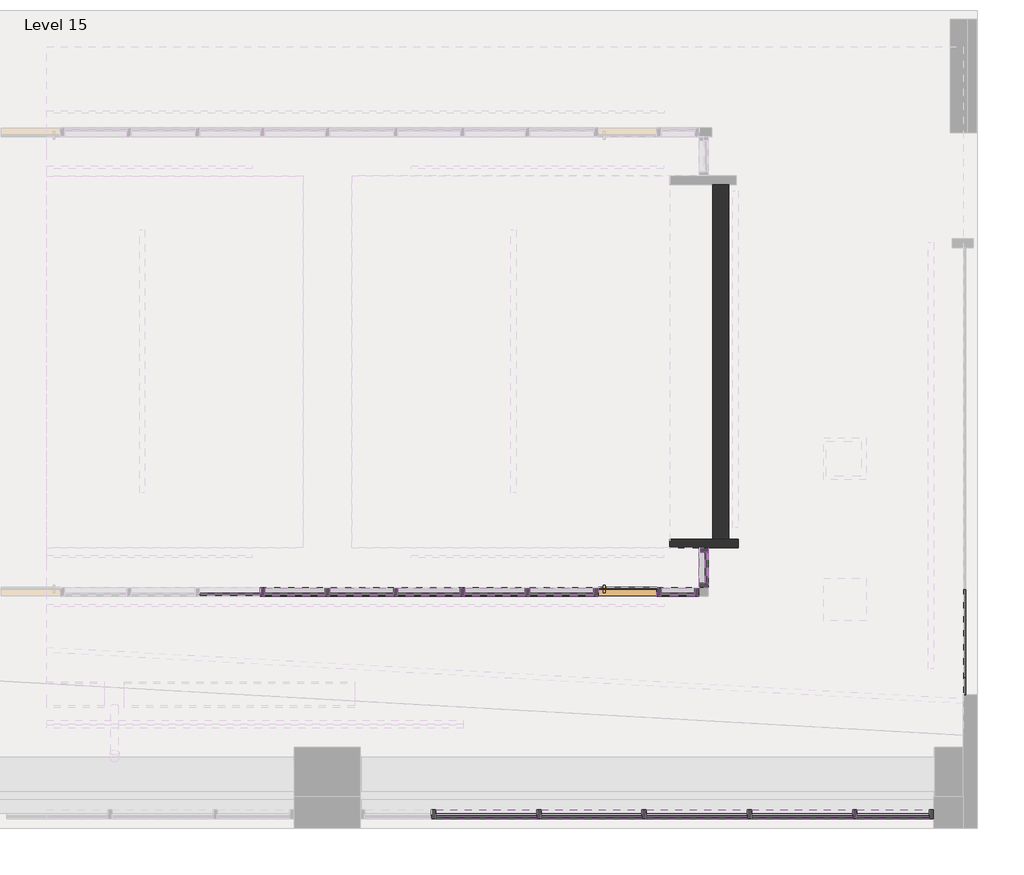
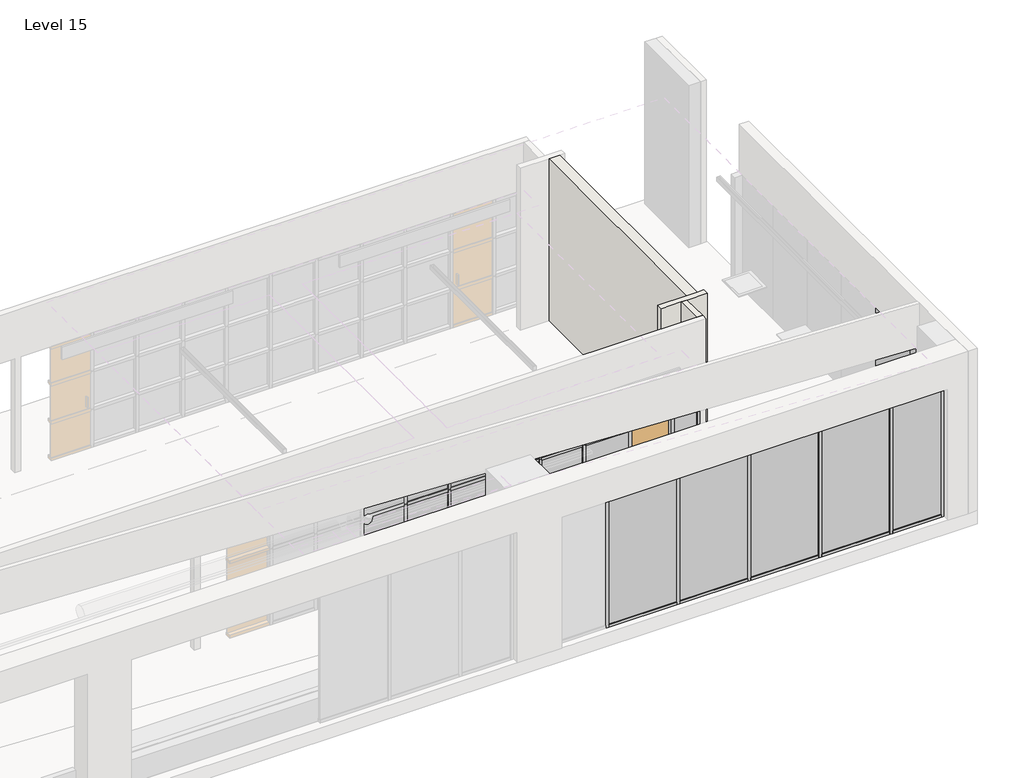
# One storey, part 3 of 11: 75 members, 31 plates, 3 walls, 1 door.
"""IFC4 building model written with IfcOpenShell, lengths in millimetres."""

from ifc_helpers import new_model, si_unit, frame, origin, place, context, project, spatial, polyline, outline, extrude, faceted_brep, transform, mapped, element, save
from components import door_curtain_wall_single_glass_door_curtain_wall_single_wood_7213060e, member_5bcf4c48, member_513efdbe, member_78934672, member_4a1dde21, member_3ebf181e, member_b9f3750b, member_757d0d80, member_69cae7f1, member_954a25dd, member_b7368e82, member_f689fba6, member_99b0d556, member_2928588c, member_aa254800, member_33497832, member_6ec9f0f0, system_panel_glazed_a2e86c99, system_panel_glazed_b6cfed7b, system_panel_glazed_1c2f863c, system_panel_glazed_3f6c4fe7, system_panel_glazed_92b1b0dd, system_panel_glazed_92ccbd79, system_panel_glazed_9c336c3c, system_panel_glazed_9f405089, system_panel_glazed_cf8f2fb3, system_panel_glazed_bf619781, system_panel_glazed_3cdeccce, system_panel_glazed_d449556d, system_panel_glazed_5ae3ba9e, system_panel_glazed_9605d38a

model = new_model("IFC4")

# Units and contexts
model_context = context("Model", 3, world=origin())
ifc_project = project(units=[si_unit("LENGTHUNIT", "METRE", prefix="MILLI")], contexts=[model_context])

# Site, building, storey
site = spatial("IfcSite", under=ifc_project)
building = spatial("IfcBuilding", under=site)
storey = spatial("IfcBuildingStorey", under=building, Name="Level 15", Elevation=51206.4)

# Door
placement = place(None, origin())
door_curtain_wall_single_glass_door_curtain_wall_single_wood_shape = door_curtain_wall_single_glass_door_curtain_wall_single_wood_7213060e(model_context)
element("IfcDoor", 1, ObjectType="Door-Curtain-Wall-Single-Glass : Door-Curtain-Wall-Single-Wood", at=placement, inside=storey, context=model_context, shape_type="MappedRepresentation", body=[
    mapped(door_curtain_wall_single_glass_door_curtain_wall_single_wood_shape, transform((13793.8112561, -3621.1064015, 51206.4), x_axis=(1.0, 0.0, 0.0), y_axis=(0.0, 1.0, 0.0), z_axis=(0.0, 0.0, 1.0))),
])

# Members
member_shape = member_5bcf4c48(model_context)
element("IfcMember", 2, ObjectType="Rectangular Mullion : 2.5\" x 5\" rectangular", at=placement, inside=storey, context=model_context, shape_type="MappedRepresentation", body=[
    mapped(member_shape, transform((18227.3384309, -6837.4064015, 54177.8252182), x_axis=(1.0, 0.0, 0.0), y_axis=(0.0, 1.0, 0.0), z_axis=(0.0, 0.0, 1.0))),
])
member_2_shape = member_513efdbe(model_context)
element("IfcMember", 3, ObjectType="Rectangular Mullion : 2.5\" x 5\" rectangular", at=placement, inside=storey, context=model_context, shape_type="MappedRepresentation", body=[
    mapped(member_2_shape, transform((12512.3384309, -6837.4064015, 51206.4), x_axis=(-1.0, 0.0, 0.0), y_axis=(0.0, 1.0, 0.0), z_axis=(0.0, 0.0, -1.0))),
])
element("IfcMember", 4, ObjectType="Rectangular Mullion : 2.5\" x 5\" rectangular", at=placement, inside=storey, context=model_context, shape_type="MappedRepresentation", body=[
    mapped(member_2_shape, transform((10988.3384309, -6837.4064015, 51206.4), x_axis=(-1.0, 0.0, 0.0), y_axis=(0.0, 1.0, 0.0), z_axis=(0.0, 0.0, -1.0))),
])
element("IfcMember", 5, ObjectType="Rectangular Mullion : 2.5\" x 5\" rectangular", at=placement, inside=storey, context=model_context, shape_type="MappedRepresentation", body=[
    mapped(member_2_shape, transform((14036.3384309, -6837.4064015, 51206.4), x_axis=(-1.0, 0.0, 0.0), y_axis=(0.0, 1.0, 0.0), z_axis=(0.0, 0.0, -1.0))),
])
element("IfcMember", 6, ObjectType="Rectangular Mullion : 2.5\" x 5\" rectangular", at=placement, inside=storey, context=model_context, shape_type="MappedRepresentation", body=[
    mapped(member_2_shape, transform((15560.3384309, -6837.4064015, 51206.4), x_axis=(-1.0, 0.0, 0.0), y_axis=(0.0, 1.0, 0.0), z_axis=(0.0, 0.0, -1.0))),
])
element("IfcMember", 7, ObjectType="Rectangular Mullion : 2.5\" x 5\" rectangular", at=placement, inside=storey, context=model_context, shape_type="MappedRepresentation", body=[
    mapped(member_2_shape, transform((17084.3384309, -6837.4064015, 51206.4), x_axis=(-1.0, 0.0, 0.0), y_axis=(0.0, 1.0, 0.0), z_axis=(0.0, 0.0, -1.0))),
])
member_3_shape = member_78934672(model_context)
element("IfcMember", 8, ObjectType="Rectangular Mullion : 2.5\" x 5\" rectangular", at=placement, inside=storey, context=model_context, shape_type="MappedRepresentation", body=[
    mapped(member_3_shape, transform((18163.8384309, -6837.4064015, 51206.4), x_axis=(0.0, 0.0, -1.0), y_axis=(0.0, 1.0, 0.0), z_axis=(1.0, 0.0, 0.0))),
])
element("IfcMember", 9, ObjectType="Rectangular Mullion : 2.5\" x 5\" rectangular", at=placement, inside=storey, context=model_context, shape_type="MappedRepresentation", body=[
    mapped(member_3_shape, transform((17116.0884309, -6837.4064015, 54177.8252182), x_axis=(0.0, 0.0, 1.0), y_axis=(0.0, 1.0, 0.0), z_axis=(-1.0, 0.0, 0.0))),
])
member_4_shape = member_4a1dde21(model_context)
element("IfcMember", 10, ObjectType="Rectangular Mullion : 2.5\" x 5\" rectangular", at=placement, inside=storey, context=model_context, shape_type="MappedRepresentation", body=[
    mapped(member_4_shape, transform((12544.0884309, -6837.4064015, 54177.8252182), x_axis=(0.0, 0.0, 1.0), y_axis=(0.0, 1.0, 0.0), z_axis=(-1.0, 0.0, 0.0))),
])
element("IfcMember", 11, ObjectType="Rectangular Mullion : 2.5\" x 5\" rectangular", at=placement, inside=storey, context=model_context, shape_type="MappedRepresentation", body=[
    mapped(member_4_shape, transform((11020.0884309, -6837.4064015, 54177.8252182), x_axis=(0.0, 0.0, 1.0), y_axis=(0.0, 1.0, 0.0), z_axis=(-1.0, 0.0, 0.0))),
])
element("IfcMember", 12, ObjectType="Rectangular Mullion : 2.5\" x 5\" rectangular", at=placement, inside=storey, context=model_context, shape_type="MappedRepresentation", body=[
    mapped(member_4_shape, transform((14068.0884309, -6837.4064015, 54177.8252182), x_axis=(0.0, 0.0, 1.0), y_axis=(0.0, 1.0, 0.0), z_axis=(-1.0, 0.0, 0.0))),
])
element("IfcMember", 13, ObjectType="Rectangular Mullion : 2.5\" x 5\" rectangular", at=placement, inside=storey, context=model_context, shape_type="MappedRepresentation", body=[
    mapped(member_4_shape, transform((15592.0884309, -6837.4064015, 54177.8252182), x_axis=(0.0, 0.0, 1.0), y_axis=(0.0, 1.0, 0.0), z_axis=(-1.0, 0.0, 0.0))),
])
element("IfcMember", 14, ObjectType="Rectangular Mullion : 2.5\" x 5\" rectangular", at=placement, inside=storey, context=model_context, shape_type="MappedRepresentation", body=[
    mapped(member_4_shape, transform((12480.5884309, -6837.4064015, 51206.4), x_axis=(0.0, 0.0, -1.0), y_axis=(0.0, 1.0, 0.0), z_axis=(1.0, 0.0, 0.0))),
])
element("IfcMember", 15, ObjectType="Rectangular Mullion : 2.5\" x 5\" rectangular", at=placement, inside=storey, context=model_context, shape_type="MappedRepresentation", body=[
    mapped(member_4_shape, transform((14004.5884309, -6837.4064015, 51206.4), x_axis=(0.0, 0.0, -1.0), y_axis=(0.0, 1.0, 0.0), z_axis=(1.0, 0.0, 0.0))),
])
element("IfcMember", 16, ObjectType="Rectangular Mullion : 2.5\" x 5\" rectangular", at=placement, inside=storey, context=model_context, shape_type="MappedRepresentation", body=[
    mapped(member_4_shape, transform((15528.5884309, -6837.4064015, 51206.4), x_axis=(0.0, 0.0, -1.0), y_axis=(0.0, 1.0, 0.0), z_axis=(1.0, 0.0, 0.0))),
])
element("IfcMember", 17, ObjectType="Rectangular Mullion : 2.5\" x 5\" rectangular", at=placement, inside=storey, context=model_context, shape_type="MappedRepresentation", body=[
    mapped(member_4_shape, transform((17052.5884309, -6837.4064015, 51206.4), x_axis=(0.0, 0.0, -1.0), y_axis=(0.0, 1.0, 0.0), z_axis=(1.0, 0.0, 0.0))),
])
member_5_shape = member_3ebf181e(model_context)
element("IfcMember", 18, ObjectType="Rectangular Mullion : 2.5\" x 5\" rectangular", at=placement, inside=storey, context=model_context, shape_type="MappedRepresentation", body=[
    mapped(member_5_shape, transform((14898.6855466, -3494.1064015, 53804.1570075), x_axis=(0.0, 0.0, 1.0), y_axis=(-1.0, 0.0, 0.0), z_axis=(0.0, -1.0, 0.0))),
])
element("IfcMember", 19, ObjectType="Rectangular Mullion : 2.5\" x 5\" rectangular", at=placement, inside=storey, context=model_context, shape_type="MappedRepresentation", body=[
    mapped(member_5_shape, transform((14898.6855466, -3043.4154908, 51206.4), x_axis=(0.0, 0.0, -1.0), y_axis=(-1.0, 0.0, 0.0), z_axis=(0.0, 1.0, 0.0))),
])
member_6_shape = member_b9f3750b(model_context)
element("IfcMember", 20, ObjectType="Rectangular Mullion : 2.5\" x 5\" rectangular", at=placement, inside=storey, context=model_context, shape_type="MappedRepresentation", body=[
    mapped(member_6_shape, transform((14771.6855466, -3621.1064015, 51206.4), x_axis=(0.0, 0.0, -1.0), y_axis=(0.0, 1.0, 0.0), z_axis=(1.0, 0.0, 0.0))),
])
element("IfcMember", 21, ObjectType="Rectangular Mullion : 2.5\" x 5\" rectangular", at=placement, inside=storey, context=model_context, shape_type="MappedRepresentation", body=[
    mapped(member_6_shape, transform((14282.7355466, -3621.1064015, 53804.1570075), x_axis=(0.0, 0.0, 1.0), y_axis=(0.0, 1.0, 0.0), z_axis=(-1.0, 0.0, 0.0))),
])
member_7_shape = member_757d0d80(model_context)
element("IfcMember", 22, ObjectType="Rectangular Mullion : 2.5\" x 5\" rectangular", at=placement, inside=storey, context=model_context, shape_type="MappedRepresentation", body=[
    mapped(member_7_shape, transform((14282.7355466, -3621.1064015, 52938.238005), x_axis=(0.0, 0.0, 1.0), y_axis=(0.0, 1.0, 0.0), z_axis=(-1.0, 0.0, 0.0))),
])
element("IfcMember", 23, ObjectType="Rectangular Mullion : 2.5\" x 5\" rectangular", at=placement, inside=storey, context=model_context, shape_type="MappedRepresentation", body=[
    mapped(member_7_shape, transform((14282.7355466, -3621.1064015, 52072.3190025), x_axis=(0.0, 0.0, 1.0), y_axis=(0.0, 1.0, 0.0), z_axis=(-1.0, 0.0, 0.0))),
])
member_8_shape = member_69cae7f1(model_context)
element("IfcMember", 24, ObjectType="Rectangular Mullion : 2.5\" x 5\" rectangular", at=placement, inside=storey, context=model_context, shape_type="MappedRepresentation", body=[
    mapped(member_8_shape, transform((14250.9855466, -3621.1064015, 52938.238005), x_axis=(-1.0, 0.0, 0.0), y_axis=(0.0, 1.0, 0.0), z_axis=(0.0, 0.0, -1.0))),
])
element("IfcMember", 25, ObjectType="Rectangular Mullion : 2.5\" x 5\" rectangular", at=placement, inside=storey, context=model_context, shape_type="MappedRepresentation", body=[
    mapped(member_8_shape, transform((13336.6369657, -3621.1064015, 52938.238005), x_axis=(-1.0, 0.0, 0.0), y_axis=(0.0, 1.0, 0.0), z_axis=(0.0, 0.0, -1.0))),
])
element("IfcMember", 26, ObjectType="Rectangular Mullion : 2.5\" x 5\" rectangular", at=placement, inside=storey, context=model_context, shape_type="MappedRepresentation", body=[
    mapped(member_8_shape, transform((12346.0369657, -3621.1064015, 52938.238005), x_axis=(-1.0, 0.0, 0.0), y_axis=(0.0, 1.0, 0.0), z_axis=(0.0, 0.0, -1.0))),
])
element("IfcMember", 27, ObjectType="Rectangular Mullion : 2.5\" x 5\" rectangular", at=placement, inside=storey, context=model_context, shape_type="MappedRepresentation", body=[
    mapped(member_8_shape, transform((11406.2369657, -3621.1064015, 52938.238005), x_axis=(-1.0, 0.0, 0.0), y_axis=(0.0, 1.0, 0.0), z_axis=(0.0, 0.0, -1.0))),
])
element("IfcMember", 28, ObjectType="Rectangular Mullion : 2.5\" x 5\" rectangular", at=placement, inside=storey, context=model_context, shape_type="MappedRepresentation", body=[
    mapped(member_8_shape, transform((10441.0369657, -3621.1064015, 52938.238005), x_axis=(-1.0, 0.0, 0.0), y_axis=(0.0, 1.0, 0.0), z_axis=(0.0, 0.0, -1.0))),
])
element("IfcMember", 29, ObjectType="Rectangular Mullion : 2.5\" x 5\" rectangular", at=placement, inside=storey, context=model_context, shape_type="MappedRepresentation", body=[
    mapped(member_8_shape, transform((9450.4369657, -3621.1064015, 52938.238005), x_axis=(-1.0, 0.0, 0.0), y_axis=(0.0, 1.0, 0.0), z_axis=(0.0, 0.0, -1.0))),
])
element("IfcMember", 30, ObjectType="Rectangular Mullion : 2.5\" x 5\" rectangular", at=placement, inside=storey, context=model_context, shape_type="MappedRepresentation", body=[
    mapped(member_8_shape, transform((8510.6369657, -3621.1064015, 52938.238005), x_axis=(-1.0, 0.0, 0.0), y_axis=(0.0, 1.0, 0.0), z_axis=(0.0, 0.0, -1.0))),
])
member_9_shape = member_954a25dd(model_context)
element("IfcMember", 31, ObjectType="Rectangular Mullion : 2.5\" x 5\" rectangular", at=placement, inside=storey, context=model_context, shape_type="MappedRepresentation", body=[
    mapped(member_9_shape, transform((14898.6855466, -2979.9154908, 53804.1570075), x_axis=(0.0, 1.0, 0.0), y_axis=(-1.0, 0.0, 0.0), z_axis=(0.0, 0.0, 1.0))),
])
element("IfcMember", 32, ObjectType="Rectangular Mullion : 2.5\" x 5\" rectangular", at=placement, inside=storey, context=model_context, shape_type="MappedRepresentation", body=[
    mapped(member_9_shape, transform((14835.1855466, -3621.1064015, 53804.1570075), x_axis=(1.0, 0.0, 0.0), y_axis=(0.0, 1.0, 0.0), z_axis=(0.0, 0.0, 1.0))),
])
element("IfcMember", 33, ObjectType="Rectangular Mullion : 2.5\" x 5\" rectangular", at=placement, inside=storey, context=model_context, shape_type="MappedRepresentation", body=[
    mapped(member_9_shape, transform((14898.6855466, -3557.6064015, 52938.238005), x_axis=(0.0, -1.0, 0.0), y_axis=(-1.0, 0.0, 0.0), z_axis=(0.0, 0.0, -1.0))),
])
element("IfcMember", 34, ObjectType="Rectangular Mullion : 2.5\" x 5\" rectangular", at=placement, inside=storey, context=model_context, shape_type="MappedRepresentation", body=[
    mapped(member_8_shape, transform((8510.6369657, -3621.1064015, 51206.4), x_axis=(-1.0, 0.0, 0.0), y_axis=(0.0, 1.0, 0.0), z_axis=(0.0, 0.0, -1.0))),
])
element("IfcMember", 35, ObjectType="Rectangular Mullion : 2.5\" x 5\" rectangular", at=placement, inside=storey, context=model_context, shape_type="MappedRepresentation", body=[
    mapped(member_8_shape, transform((9450.4369657, -3621.1064015, 51206.4), x_axis=(-1.0, 0.0, 0.0), y_axis=(0.0, 1.0, 0.0), z_axis=(0.0, 0.0, -1.0))),
])
element("IfcMember", 36, ObjectType="Rectangular Mullion : 2.5\" x 5\" rectangular", at=placement, inside=storey, context=model_context, shape_type="MappedRepresentation", body=[
    mapped(member_8_shape, transform((10441.0369657, -3621.1064015, 51206.4), x_axis=(-1.0, 0.0, 0.0), y_axis=(0.0, 1.0, 0.0), z_axis=(0.0, 0.0, -1.0))),
])
element("IfcMember", 37, ObjectType="Rectangular Mullion : 2.5\" x 5\" rectangular", at=placement, inside=storey, context=model_context, shape_type="MappedRepresentation", body=[
    mapped(member_8_shape, transform((11406.2369657, -3621.1064015, 51206.4), x_axis=(-1.0, 0.0, 0.0), y_axis=(0.0, 1.0, 0.0), z_axis=(0.0, 0.0, -1.0))),
])
element("IfcMember", 38, ObjectType="Rectangular Mullion : 2.5\" x 5\" rectangular", at=placement, inside=storey, context=model_context, shape_type="MappedRepresentation", body=[
    mapped(member_8_shape, transform((12346.0369657, -3621.1064015, 51206.4), x_axis=(-1.0, 0.0, 0.0), y_axis=(0.0, 1.0, 0.0), z_axis=(0.0, 0.0, -1.0))),
])
element("IfcMember", 39, ObjectType="Rectangular Mullion : 2.5\" x 5\" rectangular", at=placement, inside=storey, context=model_context, shape_type="MappedRepresentation", body=[
    mapped(member_8_shape, transform((13336.6369657, -3621.1064015, 51206.4), x_axis=(-1.0, 0.0, 0.0), y_axis=(0.0, 1.0, 0.0), z_axis=(0.0, 0.0, -1.0))),
])
element("IfcMember", 40, ObjectType="Rectangular Mullion : 2.5\" x 5\" rectangular", at=placement, inside=storey, context=model_context, shape_type="MappedRepresentation", body=[
    mapped(member_8_shape, transform((14250.9855466, -3621.1064015, 51206.4), x_axis=(-1.0, 0.0, 0.0), y_axis=(0.0, 1.0, 0.0), z_axis=(0.0, 0.0, -1.0))),
])
element("IfcMember", 41, ObjectType="Rectangular Mullion : 2.5\" x 5\" rectangular", at=placement, inside=storey, context=model_context, shape_type="MappedRepresentation", body=[
    mapped(member_8_shape, transform((14250.9855466, -3621.1064015, 52072.3190025), x_axis=(-1.0, 0.0, 0.0), y_axis=(0.0, 1.0, 0.0), z_axis=(0.0, 0.0, -1.0))),
])
element("IfcMember", 42, ObjectType="Rectangular Mullion : 2.5\" x 5\" rectangular", at=placement, inside=storey, context=model_context, shape_type="MappedRepresentation", body=[
    mapped(member_8_shape, transform((13336.6369657, -3621.1064015, 52072.3190025), x_axis=(-1.0, 0.0, 0.0), y_axis=(0.0, 1.0, 0.0), z_axis=(0.0, 0.0, -1.0))),
])
element("IfcMember", 43, ObjectType="Rectangular Mullion : 2.5\" x 5\" rectangular", at=placement, inside=storey, context=model_context, shape_type="MappedRepresentation", body=[
    mapped(member_8_shape, transform((12346.0369657, -3621.1064015, 52072.3190025), x_axis=(-1.0, 0.0, 0.0), y_axis=(0.0, 1.0, 0.0), z_axis=(0.0, 0.0, -1.0))),
])
element("IfcMember", 44, ObjectType="Rectangular Mullion : 2.5\" x 5\" rectangular", at=placement, inside=storey, context=model_context, shape_type="MappedRepresentation", body=[
    mapped(member_8_shape, transform((11406.2369657, -3621.1064015, 52072.3190025), x_axis=(-1.0, 0.0, 0.0), y_axis=(0.0, 1.0, 0.0), z_axis=(0.0, 0.0, -1.0))),
])
element("IfcMember", 45, ObjectType="Rectangular Mullion : 2.5\" x 5\" rectangular", at=placement, inside=storey, context=model_context, shape_type="MappedRepresentation", body=[
    mapped(member_8_shape, transform((10441.0369657, -3621.1064015, 52072.3190025), x_axis=(-1.0, 0.0, 0.0), y_axis=(0.0, 1.0, 0.0), z_axis=(0.0, 0.0, -1.0))),
])
element("IfcMember", 46, ObjectType="Rectangular Mullion : 2.5\" x 5\" rectangular", at=placement, inside=storey, context=model_context, shape_type="MappedRepresentation", body=[
    mapped(member_8_shape, transform((9450.4369657, -3621.1064015, 52072.3190025), x_axis=(-1.0, 0.0, 0.0), y_axis=(0.0, 1.0, 0.0), z_axis=(0.0, 0.0, -1.0))),
])
element("IfcMember", 47, ObjectType="Rectangular Mullion : 2.5\" x 5\" rectangular", at=placement, inside=storey, context=model_context, shape_type="MappedRepresentation", body=[
    mapped(member_8_shape, transform((8510.6369657, -3621.1064015, 52072.3190025), x_axis=(-1.0, 0.0, 0.0), y_axis=(0.0, 1.0, 0.0), z_axis=(0.0, 0.0, -1.0))),
])
element("IfcMember", 48, ObjectType="Rectangular Mullion : 2.5\" x 5\" rectangular", at=placement, inside=storey, context=model_context, shape_type="MappedRepresentation", body=[
    mapped(member_9_shape, transform((14898.6855466, -3557.6064015, 51206.4), x_axis=(0.0, -1.0, 0.0), y_axis=(-1.0, 0.0, 0.0), z_axis=(0.0, 0.0, -1.0))),
])
element("IfcMember", 49, ObjectType="Rectangular Mullion : 2.5\" x 5\" rectangular", at=placement, inside=storey, context=model_context, shape_type="MappedRepresentation", body=[
    mapped(member_9_shape, transform((14835.1855466, -3621.1064015, 52938.238005), x_axis=(1.0, 0.0, 0.0), y_axis=(0.0, 1.0, 0.0), z_axis=(0.0, 0.0, 1.0))),
])
element("IfcMember", 50, ObjectType="Rectangular Mullion : 2.5\" x 5\" rectangular", at=placement, inside=storey, context=model_context, shape_type="MappedRepresentation", body=[
    mapped(member_9_shape, transform((14898.6855466, -2979.9154908, 52938.238005), x_axis=(0.0, 1.0, 0.0), y_axis=(-1.0, 0.0, 0.0), z_axis=(0.0, 0.0, 1.0))),
])
element("IfcMember", 51, ObjectType="Rectangular Mullion : 2.5\" x 5\" rectangular", at=placement, inside=storey, context=model_context, shape_type="MappedRepresentation", body=[
    mapped(member_9_shape, transform((14898.6855466, -3557.6064015, 52072.3190025), x_axis=(0.0, -1.0, 0.0), y_axis=(-1.0, 0.0, 0.0), z_axis=(0.0, 0.0, -1.0))),
])
element("IfcMember", 52, ObjectType="Rectangular Mullion : 2.5\" x 5\" rectangular", at=placement, inside=storey, context=model_context, shape_type="MappedRepresentation", body=[
    mapped(member_9_shape, transform((14835.1855466, -3621.1064015, 52072.3190025), x_axis=(1.0, 0.0, 0.0), y_axis=(0.0, 1.0, 0.0), z_axis=(0.0, 0.0, 1.0))),
])
element("IfcMember", 53, ObjectType="Rectangular Mullion : 2.5\" x 5\" rectangular", at=placement, inside=storey, context=model_context, shape_type="MappedRepresentation", body=[
    mapped(member_9_shape, transform((14898.6855466, -2979.9154908, 52072.3190025), x_axis=(0.0, 1.0, 0.0), y_axis=(-1.0, 0.0, 0.0), z_axis=(0.0, 0.0, 1.0))),
])
member_10_shape = member_b7368e82(model_context)
element("IfcMember", 54, ObjectType="Rectangular Mullion : 2.5\" x 5\" rectangular", at=placement, inside=storey, context=model_context, shape_type="MappedRepresentation", body=[
    mapped(member_10_shape, transform((10472.7869657, -3621.1064015, 53804.1570075), x_axis=(0.0, 0.0, 1.0), y_axis=(0.0, 1.0, 0.0), z_axis=(-1.0, 0.0, 0.0))),
])
element("IfcMember", 55, ObjectType="Rectangular Mullion : 2.5\" x 5\" rectangular", at=placement, inside=storey, context=model_context, shape_type="MappedRepresentation", body=[
    mapped(member_10_shape, transform((11374.4869657, -3621.1064015, 51206.4), x_axis=(0.0, 0.0, -1.0), y_axis=(0.0, 1.0, 0.0), z_axis=(1.0, 0.0, 0.0))),
])
member_11_shape = member_f689fba6(model_context)
element("IfcMember", 56, ObjectType="Rectangular Mullion : 2.5\" x 5\" rectangular", at=placement, inside=storey, context=model_context, shape_type="MappedRepresentation", body=[
    mapped(member_11_shape, transform((9482.1869657, -3621.1064015, 53804.1570075), x_axis=(0.0, 0.0, 1.0), y_axis=(0.0, 1.0, 0.0), z_axis=(-1.0, 0.0, 0.0))),
])
element("IfcMember", 57, ObjectType="Rectangular Mullion : 2.5\" x 5\" rectangular", at=placement, inside=storey, context=model_context, shape_type="MappedRepresentation", body=[
    mapped(member_11_shape, transform((12377.7869657, -3621.1064015, 53804.1570075), x_axis=(0.0, 0.0, 1.0), y_axis=(0.0, 1.0, 0.0), z_axis=(-1.0, 0.0, 0.0))),
])
element("IfcMember", 58, ObjectType="Rectangular Mullion : 2.5\" x 5\" rectangular", at=placement, inside=storey, context=model_context, shape_type="MappedRepresentation", body=[
    mapped(member_11_shape, transform((10409.2869657, -3621.1064015, 51206.4), x_axis=(0.0, 0.0, -1.0), y_axis=(0.0, 1.0, 0.0), z_axis=(1.0, 0.0, 0.0))),
])
element("IfcMember", 59, ObjectType="Rectangular Mullion : 2.5\" x 5\" rectangular", at=placement, inside=storey, context=model_context, shape_type="MappedRepresentation", body=[
    mapped(member_11_shape, transform((13304.8869657, -3621.1064015, 51206.4), x_axis=(0.0, 0.0, -1.0), y_axis=(0.0, 1.0, 0.0), z_axis=(1.0, 0.0, 0.0))),
])
member_12_shape = member_99b0d556(model_context)
element("IfcMember", 60, ObjectType="Rectangular Mullion : 2.5\" x 5\" rectangular", at=placement, inside=storey, context=model_context, shape_type="MappedRepresentation", body=[
    mapped(member_12_shape, transform((8542.3869657, -3621.1064015, 53804.1570075), x_axis=(0.0, 0.0, 1.0), y_axis=(0.0, 1.0, 0.0), z_axis=(-1.0, 0.0, 0.0))),
])
element("IfcMember", 61, ObjectType="Rectangular Mullion : 2.5\" x 5\" rectangular", at=placement, inside=storey, context=model_context, shape_type="MappedRepresentation", body=[
    mapped(member_12_shape, transform((11437.9869657, -3621.1064015, 53804.1570075), x_axis=(0.0, 0.0, 1.0), y_axis=(0.0, 1.0, 0.0), z_axis=(-1.0, 0.0, 0.0))),
])
element("IfcMember", 62, ObjectType="Rectangular Mullion : 2.5\" x 5\" rectangular", at=placement, inside=storey, context=model_context, shape_type="MappedRepresentation", body=[
    mapped(member_12_shape, transform((8478.8869657, -3621.1064015, 51206.4), x_axis=(0.0, 0.0, -1.0), y_axis=(0.0, 1.0, 0.0), z_axis=(1.0, 0.0, 0.0))),
])
element("IfcMember", 63, ObjectType="Rectangular Mullion : 2.5\" x 5\" rectangular", at=placement, inside=storey, context=model_context, shape_type="MappedRepresentation", body=[
    mapped(member_12_shape, transform((9418.6869657, -3621.1064015, 51206.4), x_axis=(0.0, 0.0, -1.0), y_axis=(0.0, 1.0, 0.0), z_axis=(1.0, 0.0, 0.0))),
])
element("IfcMember", 64, ObjectType="Rectangular Mullion : 2.5\" x 5\" rectangular", at=placement, inside=storey, context=model_context, shape_type="MappedRepresentation", body=[
    mapped(member_12_shape, transform((12314.2869657, -3621.1064015, 51206.4), x_axis=(0.0, 0.0, -1.0), y_axis=(0.0, 1.0, 0.0), z_axis=(1.0, 0.0, 0.0))),
])
member_13_shape = member_2928588c(model_context)
element("IfcMember", 65, ObjectType="Rectangular Mullion : 2.5\" x 5\" rectangular", at=placement, inside=storey, context=model_context, shape_type="MappedRepresentation", body=[
    mapped(member_13_shape, transform((12377.7869657, -3621.1064015, 52938.238005), x_axis=(0.0, 0.0, 1.0), y_axis=(0.0, 1.0, 0.0), z_axis=(-1.0, 0.0, 0.0))),
])
element("IfcMember", 66, ObjectType="Rectangular Mullion : 2.5\" x 5\" rectangular", at=placement, inside=storey, context=model_context, shape_type="MappedRepresentation", body=[
    mapped(member_13_shape, transform((9482.1869657, -3621.1064015, 52938.238005), x_axis=(0.0, 0.0, 1.0), y_axis=(0.0, 1.0, 0.0), z_axis=(-1.0, 0.0, 0.0))),
])
element("IfcMember", 67, ObjectType="Rectangular Mullion : 2.5\" x 5\" rectangular", at=placement, inside=storey, context=model_context, shape_type="MappedRepresentation", body=[
    mapped(member_13_shape, transform((12377.7869657, -3621.1064015, 52072.3190025), x_axis=(0.0, 0.0, 1.0), y_axis=(0.0, 1.0, 0.0), z_axis=(-1.0, 0.0, 0.0))),
])
element("IfcMember", 68, ObjectType="Rectangular Mullion : 2.5\" x 5\" rectangular", at=placement, inside=storey, context=model_context, shape_type="MappedRepresentation", body=[
    mapped(member_13_shape, transform((9482.1869657, -3621.1064015, 52072.3190025), x_axis=(0.0, 0.0, 1.0), y_axis=(0.0, 1.0, 0.0), z_axis=(-1.0, 0.0, 0.0))),
])
member_14_shape = member_aa254800(model_context)
element("IfcMember", 69, ObjectType="Rectangular Mullion : 2.5\" x 5\" rectangular", at=placement, inside=storey, context=model_context, shape_type="MappedRepresentation", body=[
    mapped(member_14_shape, transform((11437.9869657, -3621.1064015, 52938.238005), x_axis=(0.0, 0.0, 1.0), y_axis=(0.0, 1.0, 0.0), z_axis=(-1.0, 0.0, 0.0))),
])
element("IfcMember", 70, ObjectType="Rectangular Mullion : 2.5\" x 5\" rectangular", at=placement, inside=storey, context=model_context, shape_type="MappedRepresentation", body=[
    mapped(member_14_shape, transform((8542.3869657, -3621.1064015, 52938.238005), x_axis=(0.0, 0.0, 1.0), y_axis=(0.0, 1.0, 0.0), z_axis=(-1.0, 0.0, 0.0))),
])
element("IfcMember", 71, ObjectType="Rectangular Mullion : 2.5\" x 5\" rectangular", at=placement, inside=storey, context=model_context, shape_type="MappedRepresentation", body=[
    mapped(member_14_shape, transform((11437.9869657, -3621.1064015, 52072.3190025), x_axis=(0.0, 0.0, 1.0), y_axis=(0.0, 1.0, 0.0), z_axis=(-1.0, 0.0, 0.0))),
])
element("IfcMember", 72, ObjectType="Rectangular Mullion : 2.5\" x 5\" rectangular", at=placement, inside=storey, context=model_context, shape_type="MappedRepresentation", body=[
    mapped(member_14_shape, transform((8542.3869657, -3621.1064015, 52072.3190025), x_axis=(0.0, 0.0, 1.0), y_axis=(0.0, 1.0, 0.0), z_axis=(-1.0, 0.0, 0.0))),
])
member_15_shape = member_33497832(model_context)
element("IfcMember", 73, ObjectType="Rectangular Mullion : 2.5\" x 5\" rectangular", at=placement, inside=storey, context=model_context, shape_type="MappedRepresentation", body=[
    mapped(member_15_shape, transform((10472.7869657, -3621.1064015, 52938.238005), x_axis=(0.0, 0.0, 1.0), y_axis=(0.0, 1.0, 0.0), z_axis=(-1.0, 0.0, 0.0))),
])
element("IfcMember", 74, ObjectType="Rectangular Mullion : 2.5\" x 5\" rectangular", at=placement, inside=storey, context=model_context, shape_type="MappedRepresentation", body=[
    mapped(member_15_shape, transform((10472.7869657, -3621.1064015, 52072.3190025), x_axis=(0.0, 0.0, 1.0), y_axis=(0.0, 1.0, 0.0), z_axis=(-1.0, 0.0, 0.0))),
])
member_16_shape = member_6ec9f0f0(model_context)
element("IfcMember", 75, ObjectType="Rectangular Mullion : 2.5\" x 5\" rectangular", at=placement, inside=storey, context=model_context, shape_type="MappedRepresentation", body=[
    mapped(member_16_shape, transform((14898.6855466, -3494.1064015, 52938.238005), x_axis=(0.0, 0.0, 1.0), y_axis=(-1.0, 0.0, 0.0), z_axis=(0.0, -1.0, 0.0))),
])
element("IfcMember", 76, ObjectType="Rectangular Mullion : 2.5\" x 5\" rectangular", at=placement, inside=storey, context=model_context, shape_type="MappedRepresentation", body=[
    mapped(member_16_shape, transform((14898.6855466, -3494.1064015, 52072.3190025), x_axis=(0.0, 0.0, 1.0), y_axis=(-1.0, 0.0, 0.0), z_axis=(0.0, -1.0, 0.0))),
])

# Plates
system_panel_glazed_shape = system_panel_glazed_a2e86c99(model_context)
element("IfcPlate", 77, ObjectType="System Panel : Glazed", at=placement, inside=storey, context=model_context, shape_type="MappedRepresentation", body=[
    mapped(system_panel_glazed_shape, transform((18645.0084916, -4221.2064015, 51206.4), x_axis=(0.0, -1.0, 0.0), y_axis=(1.0, 0.0, 0.0), z_axis=(0.0, 0.0, 1.0))),
])
system_panel_glazed_2_shape = system_panel_glazed_b6cfed7b(model_context)
element("IfcPlate", 78, ObjectType="System Panel : Glazed", at=placement, inside=storey, context=model_context, shape_type="MappedRepresentation", body=[
    mapped(system_panel_glazed_2_shape, transform((17639.9634309, -6837.4064015, 51269.9), x_axis=(-1.0, 0.0, 0.0), y_axis=(0.0, -1.0, 0.0), z_axis=(0.0, 0.0, 1.0))),
])
system_panel_glazed_3_shape = system_panel_glazed_1c2f863c(model_context)
element("IfcPlate", 79, ObjectType="System Panel : Glazed", at=placement, inside=storey, context=model_context, shape_type="MappedRepresentation", body=[
    mapped(system_panel_glazed_3_shape, transform((11750.3384309, -6837.4064015, 51269.9), x_axis=(-1.0, 0.0, 0.0), y_axis=(0.0, -1.0, 0.0), z_axis=(0.0, 0.0, 1.0))),
])
element("IfcPlate", 80, ObjectType="System Panel : Glazed", at=placement, inside=storey, context=model_context, shape_type="MappedRepresentation", body=[
    mapped(system_panel_glazed_3_shape, transform((13274.3384309, -6837.4064015, 51269.9), x_axis=(-1.0, 0.0, 0.0), y_axis=(0.0, -1.0, 0.0), z_axis=(0.0, 0.0, 1.0))),
])
element("IfcPlate", 81, ObjectType="System Panel : Glazed", at=placement, inside=storey, context=model_context, shape_type="MappedRepresentation", body=[
    mapped(system_panel_glazed_3_shape, transform((14798.3384309, -6837.4064015, 51269.9), x_axis=(-1.0, 0.0, 0.0), y_axis=(0.0, -1.0, 0.0), z_axis=(0.0, 0.0, 1.0))),
])
element("IfcPlate", 82, ObjectType="System Panel : Glazed", at=placement, inside=storey, context=model_context, shape_type="MappedRepresentation", body=[
    mapped(system_panel_glazed_3_shape, transform((16322.3384309, -6837.4064015, 51269.9), x_axis=(-1.0, 0.0, 0.0), y_axis=(0.0, -1.0, 0.0), z_axis=(0.0, 0.0, 1.0))),
])
system_panel_glazed_4_shape = system_panel_glazed_3f6c4fe7(model_context)
element("IfcPlate", 83, ObjectType="System Panel : Glazed", at=placement, inside=storey, context=model_context, shape_type="MappedRepresentation", body=[
    mapped(system_panel_glazed_4_shape, transform((14527.2105466, -3621.1064015, 51269.9), x_axis=(-1.0, 0.0, 0.0), y_axis=(0.0, -1.0, 0.0), z_axis=(0.0, 0.0, 1.0))),
])
element("IfcPlate", 84, ObjectType="System Panel : Glazed", at=placement, inside=storey, context=model_context, shape_type="MappedRepresentation", body=[
    mapped(system_panel_glazed_4_shape, transform((14527.2105466, -3621.1064015, 52969.988005), x_axis=(-1.0, 0.0, 0.0), y_axis=(0.0, -1.0, 0.0), z_axis=(0.0, 0.0, 1.0))),
])
system_panel_glazed_5_shape = system_panel_glazed_92b1b0dd(model_context)
element("IfcPlate", 85, ObjectType="System Panel : Glazed", at=placement, inside=storey, context=model_context, shape_type="MappedRepresentation", body=[
    mapped(system_panel_glazed_5_shape, transform((14527.2105466, -3621.1064015, 52104.0690025), x_axis=(-1.0, 0.0, 0.0), y_axis=(0.0, -1.0, 0.0), z_axis=(0.0, 0.0, 1.0))),
])
system_panel_glazed_6_shape = system_panel_glazed_92ccbd79(model_context)
element("IfcPlate", 86, ObjectType="System Panel : Glazed", at=placement, inside=storey, context=model_context, shape_type="MappedRepresentation", body=[
    mapped(system_panel_glazed_6_shape, transform((9945.7369657, -3621.1064015, 51269.9), x_axis=(-1.0, 0.0, 0.0), y_axis=(0.0, -1.0, 0.0), z_axis=(0.0, 0.0, 1.0))),
])
element("IfcPlate", 87, ObjectType="System Panel : Glazed", at=placement, inside=storey, context=model_context, shape_type="MappedRepresentation", body=[
    mapped(system_panel_glazed_6_shape, transform((12841.3369657, -3621.1064015, 51269.9), x_axis=(-1.0, 0.0, 0.0), y_axis=(0.0, -1.0, 0.0), z_axis=(0.0, 0.0, 1.0))),
])
element("IfcPlate", 88, ObjectType="System Panel : Glazed", at=placement, inside=storey, context=model_context, shape_type="MappedRepresentation", body=[
    mapped(system_panel_glazed_6_shape, transform((12841.3369657, -3621.1064015, 52969.988005), x_axis=(-1.0, 0.0, 0.0), y_axis=(0.0, -1.0, 0.0), z_axis=(0.0, 0.0, 1.0))),
])
element("IfcPlate", 89, ObjectType="System Panel : Glazed", at=placement, inside=storey, context=model_context, shape_type="MappedRepresentation", body=[
    mapped(system_panel_glazed_6_shape, transform((9945.7369657, -3621.1064015, 52969.988005), x_axis=(-1.0, 0.0, 0.0), y_axis=(0.0, -1.0, 0.0), z_axis=(0.0, 0.0, 1.0))),
])
system_panel_glazed_7_shape = system_panel_glazed_9c336c3c(model_context)
element("IfcPlate", 90, ObjectType="System Panel : Glazed", at=placement, inside=storey, context=model_context, shape_type="MappedRepresentation", body=[
    mapped(system_panel_glazed_7_shape, transform((8040.7369657, -3621.1064015, 51269.9), x_axis=(-1.0, 0.0, 0.0), y_axis=(0.0, -1.0, 0.0), z_axis=(0.0, 0.0, 1.0))),
])
element("IfcPlate", 91, ObjectType="System Panel : Glazed", at=placement, inside=storey, context=model_context, shape_type="MappedRepresentation", body=[
    mapped(system_panel_glazed_7_shape, transform((8980.5369657, -3621.1064015, 51269.9), x_axis=(-1.0, 0.0, 0.0), y_axis=(0.0, -1.0, 0.0), z_axis=(0.0, 0.0, 1.0))),
])
element("IfcPlate", 92, ObjectType="System Panel : Glazed", at=placement, inside=storey, context=model_context, shape_type="MappedRepresentation", body=[
    mapped(system_panel_glazed_7_shape, transform((11876.1369657, -3621.1064015, 51269.9), x_axis=(-1.0, 0.0, 0.0), y_axis=(0.0, -1.0, 0.0), z_axis=(0.0, 0.0, 1.0))),
])
element("IfcPlate", 93, ObjectType="System Panel : Glazed", at=placement, inside=storey, context=model_context, shape_type="MappedRepresentation", body=[
    mapped(system_panel_glazed_7_shape, transform((11876.1369657, -3621.1064015, 52969.988005), x_axis=(-1.0, 0.0, 0.0), y_axis=(0.0, -1.0, 0.0), z_axis=(0.0, 0.0, 1.0))),
])
element("IfcPlate", 94, ObjectType="System Panel : Glazed", at=placement, inside=storey, context=model_context, shape_type="MappedRepresentation", body=[
    mapped(system_panel_glazed_7_shape, transform((8980.5369657, -3621.1064015, 52969.988005), x_axis=(-1.0, 0.0, 0.0), y_axis=(0.0, -1.0, 0.0), z_axis=(0.0, 0.0, 1.0))),
])
element("IfcPlate", 95, ObjectType="System Panel : Glazed", at=placement, inside=storey, context=model_context, shape_type="MappedRepresentation", body=[
    mapped(system_panel_glazed_7_shape, transform((8040.7369657, -3621.1064015, 52969.988005), x_axis=(-1.0, 0.0, 0.0), y_axis=(0.0, -1.0, 0.0), z_axis=(0.0, 0.0, 1.0))),
])
system_panel_glazed_8_shape = system_panel_glazed_9f405089(model_context)
element("IfcPlate", 96, ObjectType="System Panel : Glazed", at=placement, inside=storey, context=model_context, shape_type="MappedRepresentation", body=[
    mapped(system_panel_glazed_8_shape, transform((10923.6369657, -3621.1064015, 51269.9), x_axis=(-1.0, 0.0, 0.0), y_axis=(0.0, -1.0, 0.0), z_axis=(0.0, 0.0, 1.0))),
])
element("IfcPlate", 97, ObjectType="System Panel : Glazed", at=placement, inside=storey, context=model_context, shape_type="MappedRepresentation", body=[
    mapped(system_panel_glazed_8_shape, transform((10923.6369657, -3621.1064015, 52969.988005), x_axis=(-1.0, 0.0, 0.0), y_axis=(0.0, -1.0, 0.0), z_axis=(0.0, 0.0, 1.0))),
])
system_panel_glazed_9_shape = system_panel_glazed_cf8f2fb3(model_context)
element("IfcPlate", 98, ObjectType="System Panel : Glazed", at=placement, inside=storey, context=model_context, shape_type="MappedRepresentation", body=[
    mapped(system_panel_glazed_9_shape, transform((10923.6369657, -3621.1064015, 52104.0690025), x_axis=(-1.0, 0.0, 0.0), y_axis=(0.0, -1.0, 0.0), z_axis=(0.0, 0.0, 1.0))),
])
system_panel_glazed_10_shape = system_panel_glazed_bf619781(model_context)
element("IfcPlate", 99, ObjectType="System Panel : Glazed", at=placement, inside=storey, context=model_context, shape_type="MappedRepresentation", body=[
    mapped(system_panel_glazed_10_shape, transform((12841.3369657, -3621.1064015, 52104.0690025), x_axis=(-1.0, 0.0, 0.0), y_axis=(0.0, -1.0, 0.0), z_axis=(0.0, 0.0, 1.0))),
])
element("IfcPlate", 100, ObjectType="System Panel : Glazed", at=placement, inside=storey, context=model_context, shape_type="MappedRepresentation", body=[
    mapped(system_panel_glazed_10_shape, transform((9945.7369657, -3621.1064015, 52104.0690025), x_axis=(-1.0, 0.0, 0.0), y_axis=(0.0, -1.0, 0.0), z_axis=(0.0, 0.0, 1.0))),
])
system_panel_glazed_11_shape = system_panel_glazed_3cdeccce(model_context)
element("IfcPlate", 101, ObjectType="System Panel : Glazed", at=placement, inside=storey, context=model_context, shape_type="MappedRepresentation", body=[
    mapped(system_panel_glazed_11_shape, transform((11876.1369657, -3621.1064015, 52104.0690025), x_axis=(-1.0, 0.0, 0.0), y_axis=(0.0, -1.0, 0.0), z_axis=(0.0, 0.0, 1.0))),
])
element("IfcPlate", 102, ObjectType="System Panel : Glazed", at=placement, inside=storey, context=model_context, shape_type="MappedRepresentation", body=[
    mapped(system_panel_glazed_11_shape, transform((8980.5369657, -3621.1064015, 52104.0690025), x_axis=(-1.0, 0.0, 0.0), y_axis=(0.0, -1.0, 0.0), z_axis=(0.0, 0.0, 1.0))),
])
element("IfcPlate", 103, ObjectType="System Panel : Glazed", at=placement, inside=storey, context=model_context, shape_type="MappedRepresentation", body=[
    mapped(system_panel_glazed_11_shape, transform((8040.7369657, -3621.1064015, 52104.0690025), x_axis=(-1.0, 0.0, 0.0), y_axis=(0.0, -1.0, 0.0), z_axis=(0.0, 0.0, 1.0))),
])
system_panel_glazed_12_shape = system_panel_glazed_d449556d(model_context)
element("IfcPlate", 104, ObjectType="System Panel : Glazed", at=placement, inside=storey, context=model_context, shape_type="MappedRepresentation", body=[
    mapped(system_panel_glazed_12_shape, transform((14898.6855466, -3268.7609462, 51269.9), x_axis=(0.0, -1.0, 0.0), y_axis=(1.0, 0.0, 0.0), z_axis=(0.0, 0.0, 1.0))),
])
element("IfcPlate", 105, ObjectType="System Panel : Glazed", at=placement, inside=storey, context=model_context, shape_type="MappedRepresentation", body=[
    mapped(system_panel_glazed_12_shape, transform((14898.6855466, -3268.7609462, 52969.988005), x_axis=(0.0, -1.0, 0.0), y_axis=(1.0, 0.0, 0.0), z_axis=(0.0, 0.0, 1.0))),
])
system_panel_glazed_13_shape = system_panel_glazed_5ae3ba9e(model_context)
element("IfcPlate", 106, ObjectType="System Panel : Glazed", at=placement, inside=storey, context=model_context, shape_type="MappedRepresentation", body=[
    mapped(system_panel_glazed_13_shape, transform((14898.6855466, -3268.7609462, 52104.0690025), x_axis=(0.0, -1.0, 0.0), y_axis=(1.0, 0.0, 0.0), z_axis=(0.0, 0.0, 1.0))),
])
system_panel_glazed_14_shape = system_panel_glazed_9605d38a(model_context)
element("IfcPlate", 107, ObjectType="System Panel : Glazed", at=placement, inside=storey, context=model_context, shape_type="MappedRepresentation", body=[
    mapped(system_panel_glazed_14_shape, transform((18645.0084916, -4982.3955418, 51206.4), x_axis=(0.0, -1.0, 0.0), y_axis=(1.0, 0.0, 0.0), z_axis=(0.0, 0.0, 1.0))),
])

# Walls
element("IfcWall", 108, ObjectType="Generic - 5\"", at=placement, inside=storey, context=model_context, shape_type="Brep", body=[
    faceted_brep([(15397.6738149, -2852.9154908, 51206.4), (15259.9736219, -2852.9154908, 51206.4), (15031.3736219, -2852.9154908, 51206.4), (14409.2229086, -2852.9154908, 51206.4), (14409.2229086, -2852.9154908, 54889.4), (15031.3736219, -2852.9154908, 54889.4), (15259.9736219, -2852.9154908, 54889.4), (15397.6738149, -2852.9154908, 54889.4), (15397.6738149, -2979.9154908, 51206.4), (15397.6738149, -2979.9154908, 54889.4), (14962.1855466, -2979.9154908, 54889.4), (14835.1855466, -2979.9154908, 54889.4), (14409.2229086, -2979.9154908, 54889.4), (14409.2229086, -2979.9154908, 51206.4)], [[[0, 1, 2, 3, 4, 5, 6, 7]], [[8, 9, 10, 11, 12, 13]], [[3, 2, 1, 0, 8, 13]], [[4, 3, 13, 12]], [[7, 6, 5, 4, 12, 11, 10, 9]], [[0, 7, 9, 8]]]),
])
element("IfcWall", 109, ObjectType="Generic - 5\"", at=placement, inside=storey, context=model_context, shape_type="SweptSolid", body=[
    extrude(outline(polyline([(14962.1855466, -2979.9154908), (14962.1855466, -3557.6064015), (14835.1855466, -3557.6064015), (14835.1855466, -2979.9154908), (14962.1855466, -2979.9154908)])), frame((0.0, 0.0, 53804.1570075), z_axis=(0.0, 0.0, 1.0), x_axis=(1.0, 0.0, 0.0)), (0.0, 0.0, 1.0), 1085.2429925),
])
element("IfcWall", 110, ObjectType="Generic - 9'", at=placement, inside=storey, context=model_context, shape_type="SweptSolid", body=[
    extrude(outline(polyline([(15031.3736219, -2852.9154908), (15031.3736219, 2275.7935985), (15259.9736219, 2275.7935985), (15259.9736219, -2852.9154908), (15031.3736219, -2852.9154908)])), frame((0.0, 0.0, 51206.4), z_axis=(0.0, 0.0, 1.0), x_axis=(1.0, 0.0, 0.0)), (0.0, 0.0, 1.0), 3683.0),
])

save(model, "model.ifc")
